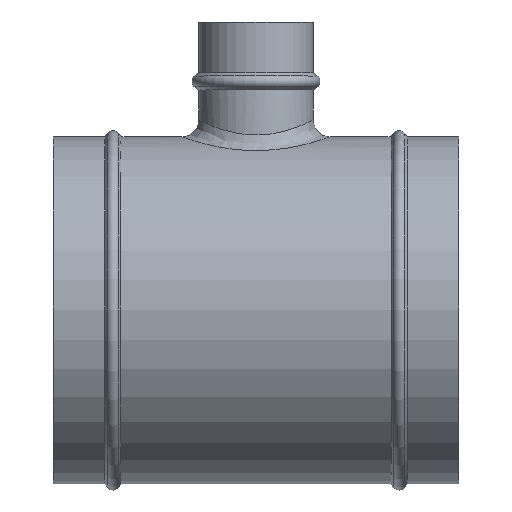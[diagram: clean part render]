
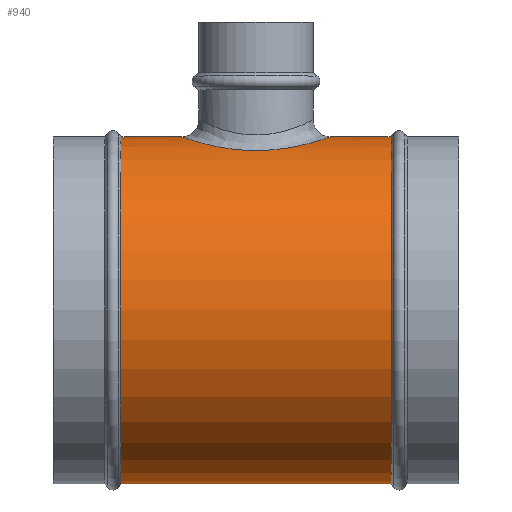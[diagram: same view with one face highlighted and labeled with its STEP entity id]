
A CAD part, top view. The second image highlights one B-rep face of the part: STEP entity #940.
In plain terms, the highlighted cylindrical face has radius 102.25 mm (diameter 204.5 mm), a partial arc.
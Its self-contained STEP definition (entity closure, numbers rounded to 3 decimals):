
#182=CARTESIAN_POINT('',(-43.75,102.25,
0.));
#183=CARTESIAN_POINT('',(-43.75,102.25,2.148));
#184=CARTESIAN_POINT('',(-43.373,102.115,6.434));
#185=CARTESIAN_POINT('',(-41.624,101.505,12.865));
#186=CARTESIAN_POINT('',(-38.652,100.516,19.091));
#187=CARTESIAN_POINT('',(-34.393,99.209,24.977));
#188=CARTESIAN_POINT('',(-28.881,97.722,30.233));
#189=CARTESIAN_POINT('',(-22.32,96.267,34.537));
#190=CARTESIAN_POINT('',(-15.071,95.08,37.644));
#191=CARTESIAN_POINT('',(-7.529,94.33,39.464));
#192=CARTESIAN_POINT('',(-0.002,94.081,40.047));
#193=CARTESIAN_POINT('',(7.524,94.33,39.464));
#194=CARTESIAN_POINT('',(15.064,95.079,37.646));
#195=CARTESIAN_POINT('',(22.317,96.267,34.539));
#196=CARTESIAN_POINT('',(28.88,97.721,30.234));
#197=CARTESIAN_POINT('',(34.392,99.209,24.977));
#198=CARTESIAN_POINT('',(38.651,100.515,19.092));
#199=CARTESIAN_POINT('',(41.624,101.505,12.865));
#200=CARTESIAN_POINT('',(43.373,102.115,6.436));
#201=CARTESIAN_POINT('',(43.75,102.25,2.149));
#202=CARTESIAN_POINT('',(43.75,102.25,0.));
#207=CARTESIAN_POINT('',(79.65,0.,0.));
#208=DIRECTION('',(1.,0.,0.));
#209=DIRECTION('',(0.,1.,0.));
#210=AXIS2_PLACEMENT_3D('',#207,#208,#209);
#215=CARTESIAN_POINT('',(-79.65,0.,0.));
#216=DIRECTION('',(1.,0.,0.));
#217=DIRECTION('',(0.,1.,0.));
#218=AXIS2_PLACEMENT_3D('',#215,#216,#217);
#289=CARTESIAN_POINT('',(43.75,102.25,0.));
#309=CARTESIAN_POINT('',(-43.75,102.25,
0.));
#314=DIRECTION('',(-1.,0.,0.));
#315=VECTOR('',#314,35.9);
#316=CARTESIAN_POINT('',(-43.75,102.25,
0.));
#317=LINE('',#316,#315);
#329=DIRECTION('',(-1.,0.,0.));
#330=VECTOR('',#329,159.3);
#331=CARTESIAN_POINT('',(79.65,-102.25,0.));
#332=LINE('',#331,#330);
#344=DIRECTION('',(-1.,0.,0.));
#345=VECTOR('',#344,35.9);
#346=CARTESIAN_POINT('',(79.65,102.25,0.));
#347=LINE('',#346,#345);
#773=CARTESIAN_POINT('',(79.65,102.25,0.));
#774=CARTESIAN_POINT('',(79.65,-102.25,0.));
#775=VERTEX_POINT('',#773);
#776=VERTEX_POINT('',#774);
#777=CARTESIAN_POINT('',(-79.65,102.25,0.));
#778=CARTESIAN_POINT('',(-79.65,-102.25,0.));
#779=VERTEX_POINT('',#777);
#780=VERTEX_POINT('',#778);
#813=VERTEX_POINT('',#289);
#814=VERTEX_POINT('',#309);
#921=CARTESIAN_POINT('',(-131.45,0.,0.));
#922=DIRECTION('',(1.,0.,0.));
#923=DIRECTION('',(0.,-1.,0.));
#924=AXIS2_PLACEMENT_3D('',#921,#922,#923);
#925=CYLINDRICAL_SURFACE('',#924,102.25);
#927=ORIENTED_EDGE('',*,*,#926,.T.);
#929=ORIENTED_EDGE('',*,*,#928,.F.);
#931=ORIENTED_EDGE('',*,*,#930,.T.);
#933=ORIENTED_EDGE('',*,*,#932,.T.);
#935=ORIENTED_EDGE('',*,*,#934,.F.);
#937=ORIENTED_EDGE('',*,*,#936,.F.);
#938=EDGE_LOOP('',(#927,#929,#931,#933,#935,#937));
#939=FACE_OUTER_BOUND('',#938,.F.);
#203=B_SPLINE_CURVE_WITH_KNOTS('',3,(#182,#183,#184,#185,#186,#187,#188,#189,
#190,#191,#192,#193,#194,#195,#196,#197,#198,#199,#200,#201,#202),.UNSPECIFIED.,
.F.,.F.,(4,1,1,1,1,1,1,1,1,1,1,1,1,1,1,1,1,1,4),(0.,0.056,
0.111,0.167,0.222,0.278,
0.333,0.389,0.444,0.5,0.556,
0.611,0.667,0.722,0.778,
0.833,0.889,0.944,1.),.UNSPECIFIED.);
#211=CIRCLE('',#210,102.25);
#219=CIRCLE('',#218,102.25);
#926=EDGE_CURVE('',#814,#813,#203,.T.);
#928=EDGE_CURVE('',#775,#813,#347,.T.);
#930=EDGE_CURVE('',#775,#776,#211,.T.);
#932=EDGE_CURVE('',#776,#780,#332,.T.);
#934=EDGE_CURVE('',#779,#780,#219,.T.);
#936=EDGE_CURVE('',#814,#779,#317,.T.);
#940=ADVANCED_FACE('',(#939),#925,.T.);
